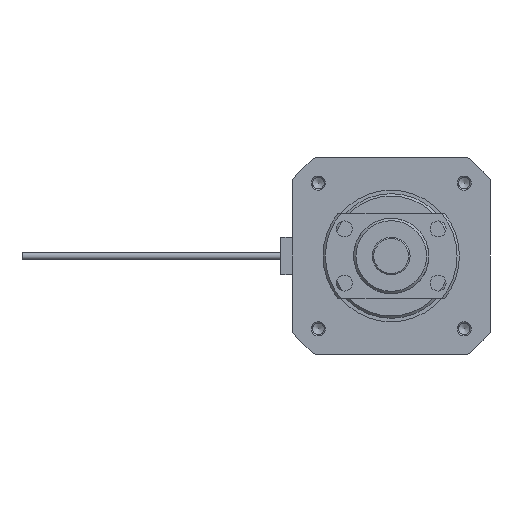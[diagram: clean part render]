
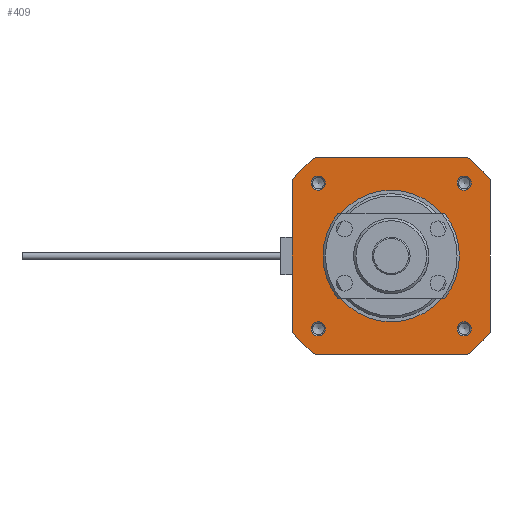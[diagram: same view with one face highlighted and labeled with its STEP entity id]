
A CAD part, left-side view. The second image highlights one B-rep face of the part: STEP entity #409.
In plain terms, the highlighted planar face has unit normal (-1, 0, 0) as drawn and (0, 0, 1) by its records, which use the part's own axes.
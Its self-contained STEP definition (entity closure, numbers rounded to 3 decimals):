
#409 = ADVANCED_FACE( '', ( #851, #852, #853, #854, #855, #856 ), #857, .T. );
#851 = FACE_BOUND( '', #1282, .T. );
#852 = FACE_BOUND( '', #1283, .T. );
#853 = FACE_BOUND( '', #1284, .T. );
#854 = FACE_BOUND( '', #1285, .T. );
#855 = FACE_BOUND( '', #1286, .T. );
#856 = FACE_OUTER_BOUND( '', #1287, .T. );
#857 = PLANE( '', #1288 );
#1282 = EDGE_LOOP( '', ( #2204 ) );
#1283 = EDGE_LOOP( '', ( #2205 ) );
#1284 = EDGE_LOOP( '', ( #2206 ) );
#1285 = EDGE_LOOP( '', ( #2207 ) );
#1286 = EDGE_LOOP( '', ( #2208 ) );
#1287 = EDGE_LOOP( '', ( #2209, #2210, #2211, #2212, #2213, #2214, #2215, #2216 ) );
#1288 = AXIS2_PLACEMENT_3D( '', #2217, #2218, #2219 );
#2204 = ORIENTED_EDGE( '', *, *, #2404, .T. );
#2205 = ORIENTED_EDGE( '', *, *, #2397, .T. );
#2206 = ORIENTED_EDGE( '', *, *, #2505, .T. );
#2207 = ORIENTED_EDGE( '', *, *, #2573, .T. );
#2208 = ORIENTED_EDGE( '', *, *, #2555, .T. );
#2209 = ORIENTED_EDGE( '', *, *, #2445, .T. );
#2210 = ORIENTED_EDGE( '', *, *, #2517, .T. );
#2211 = ORIENTED_EDGE( '', *, *, #2267, .T. );
#2212 = ORIENTED_EDGE( '', *, *, #2418, .T. );
#2213 = ORIENTED_EDGE( '', *, *, #2258, .T. );
#2214 = ORIENTED_EDGE( '', *, *, #2379, .T. );
#2215 = ORIENTED_EDGE( '', *, *, #2474, .T. );
#2216 = ORIENTED_EDGE( '', *, *, #2580, .T. );
#2217 = CARTESIAN_POINT( '', ( 0., 0., -195. ) );
#2218 = DIRECTION( '', ( 0., 0., 1. ) );
#2219 = DIRECTION( '', ( 1., 0., 0. ) );
#2258 = EDGE_CURVE( '', #2627, #2625, #2628, .T. );
#2267 = EDGE_CURVE( '', #2642, #2640, #2643, .T. );
#2379 = EDGE_CURVE( '', #2625, #2831, #2833, .T. );
#2397 = EDGE_CURVE( '', #2860, #2860, #2861, .T. );
#2404 = EDGE_CURVE( '', #2869, #2869, #2870, .T. );
#2418 = EDGE_CURVE( '', #2640, #2627, #2890, .T. );
#2445 = EDGE_CURVE( '', #2930, #2928, #2931, .T. );
#2474 = EDGE_CURVE( '', #2831, #2967, #2969, .T. );
#2505 = EDGE_CURVE( '', #3007, #3007, #3008, .T. );
#2517 = EDGE_CURVE( '', #2928, #2642, #3021, .T. );
#2555 = EDGE_CURVE( '', #3070, #3070, #3071, .T. );
#2573 = EDGE_CURVE( '', #3094, #3094, #3095, .T. );
#2580 = EDGE_CURVE( '', #2967, #2930, #3101, .T. );
#2625 = VERTEX_POINT( '', #3158 );
#2627 = VERTEX_POINT( '', #3161 );
#2628 = LINE( '', #3162, #3163 );
#2640 = VERTEX_POINT( '', #3178 );
#2642 = VERTEX_POINT( '', #3181 );
#2643 = LINE( '', #3182, #3183 );
#2831 = VERTEX_POINT( '', #3435 );
#2833 = CIRCLE( '', #3438, 26.5 );
#2860 = VERTEX_POINT( '', #3512 );
#2861 = CIRCLE( '', #3513, 1.5 );
#2869 = VERTEX_POINT( '', #3521 );
#2870 = CIRCLE( '', #3522, 1.5 );
#2890 = CIRCLE( '', #3549, 26.5 );
#2928 = VERTEX_POINT( '', #3596 );
#2930 = VERTEX_POINT( '', #3599 );
#2931 = LINE( '', #3600, #3601 );
#2967 = VERTEX_POINT( '', #3646 );
#2969 = LINE( '', #3649, #3650 );
#3007 = VERTEX_POINT( '', #3711 );
#3008 = CIRCLE( '', #3712, 1.5 );
#3021 = CIRCLE( '', #3726, 26.5 );
#3070 = VERTEX_POINT( '', #3780 );
#3071 = CIRCLE( '', #3781, 14. );
#3094 = VERTEX_POINT( '', #3808 );
#3095 = CIRCLE( '', #3809, 1.5 );
#3101 = CIRCLE( '', #3815, 26.5 );
#3158 = CARTESIAN_POINT( '', ( 21., 16.163, -195. ) );
#3161 = CARTESIAN_POINT( '', ( 21., -16.163, -195. ) );
#3162 = CARTESIAN_POINT( '', ( 21., -16.163, -195. ) );
#3163 = VECTOR( '', #3886, 1000. );
#3178 = CARTESIAN_POINT( '', ( 16.163, -21., -195. ) );
#3181 = CARTESIAN_POINT( '', ( -16.163, -21., -195. ) );
#3182 = CARTESIAN_POINT( '', ( -16.163, -21., -195. ) );
#3183 = VECTOR( '', #3897, 1000. );
#3435 = CARTESIAN_POINT( '', ( 16.163, 21., -195. ) );
#3438 = AXIS2_PLACEMENT_3D( '', #4059, #4060, #4061 );
#3512 = CARTESIAN_POINT( '', ( 14., -15.5, -195. ) );
#3513 = AXIS2_PLACEMENT_3D( '', #4079, #4080, #4081 );
#3521 = CARTESIAN_POINT( '', ( -17., -15.5, -195. ) );
#3522 = AXIS2_PLACEMENT_3D( '', #4088, #4089, #4090 );
#3549 = AXIS2_PLACEMENT_3D( '', #4104, #4105, #4106 );
#3596 = CARTESIAN_POINT( '', ( -21., -16.163, -195. ) );
#3599 = CARTESIAN_POINT( '', ( -21., 16.163, -195. ) );
#3600 = CARTESIAN_POINT( '', ( -21., 16.163, -195. ) );
#3601 = VECTOR( '', #4141, 1000. );
#3646 = CARTESIAN_POINT( '', ( -16.163, 21., -195. ) );
#3649 = CARTESIAN_POINT( '', ( 16.163, 21., -195. ) );
#3650 = VECTOR( '', #4173, 1000. );
#3711 = CARTESIAN_POINT( '', ( -17., 15.5, -195. ) );
#3712 = AXIS2_PLACEMENT_3D( '', #4204, #4205, #4206 );
#3726 = AXIS2_PLACEMENT_3D( '', #4220, #4221, #4222 );
#3780 = CARTESIAN_POINT( '', ( -14., 0., -195. ) );
#3781 = AXIS2_PLACEMENT_3D( '', #4273, #4274, #4275 );
#3808 = CARTESIAN_POINT( '', ( 14., 15.5, -195. ) );
#3809 = AXIS2_PLACEMENT_3D( '', #4295, #4296, #4297 );
#3815 = AXIS2_PLACEMENT_3D( '', #4298, #4299, #4300 );
#3886 = DIRECTION( '', ( 0., 1., 0. ) );
#3897 = DIRECTION( '', ( 1., 0., 0. ) );
#4059 = CARTESIAN_POINT( '', ( 0., 0., -195. ) );
#4060 = DIRECTION( '', ( 0., 0., 1. ) );
#4061 = DIRECTION( '', ( 1., 0., 0. ) );
#4079 = CARTESIAN_POINT( '', ( 15.5, -15.5, -195. ) );
#4080 = DIRECTION( '', ( 0., 0., -1. ) );
#4081 = DIRECTION( '', ( -1., 0., 0. ) );
#4088 = CARTESIAN_POINT( '', ( -15.5, -15.5, -195. ) );
#4089 = DIRECTION( '', ( 0., 0., -1. ) );
#4090 = DIRECTION( '', ( -1., 0., 0. ) );
#4104 = CARTESIAN_POINT( '', ( 0., 0., -195. ) );
#4105 = DIRECTION( '', ( 0., 0., 1. ) );
#4106 = DIRECTION( '', ( 1., 0., 0. ) );
#4141 = DIRECTION( '', ( 0., -1., 0. ) );
#4173 = DIRECTION( '', ( -1., 0., 0. ) );
#4204 = CARTESIAN_POINT( '', ( -15.5, 15.5, -195. ) );
#4205 = DIRECTION( '', ( 0., 0., -1. ) );
#4206 = DIRECTION( '', ( -1., 0., 0. ) );
#4220 = CARTESIAN_POINT( '', ( 0., 0., -195. ) );
#4221 = DIRECTION( '', ( 0., 0., 1. ) );
#4222 = DIRECTION( '', ( 1., 0., 0. ) );
#4273 = CARTESIAN_POINT( '', ( 0., 0., -195. ) );
#4274 = DIRECTION( '', ( 0., 0., -1. ) );
#4275 = DIRECTION( '', ( -1., 0., 0. ) );
#4295 = CARTESIAN_POINT( '', ( 15.5, 15.5, -195. ) );
#4296 = DIRECTION( '', ( 0., 0., -1. ) );
#4297 = DIRECTION( '', ( -1., 0., 0. ) );
#4298 = CARTESIAN_POINT( '', ( 0., 0., -195. ) );
#4299 = DIRECTION( '', ( 0., 0., 1. ) );
#4300 = DIRECTION( '', ( 1., 0., 0. ) );
